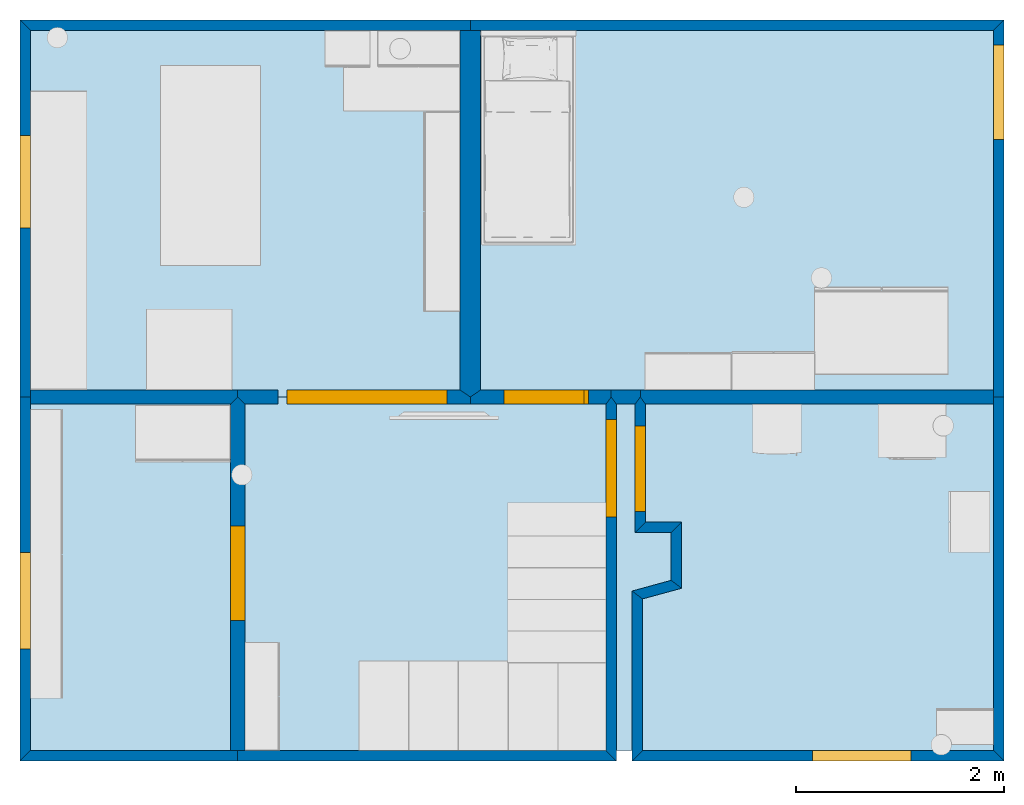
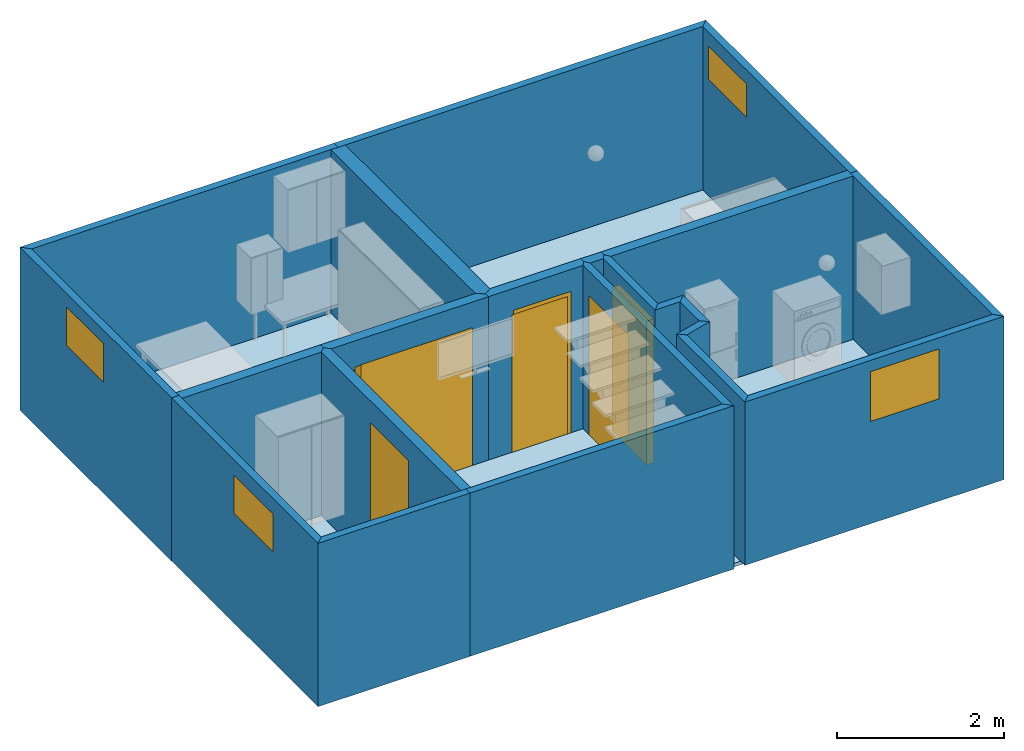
# One storey, part 1 of 9: 22 walls, 6 doors, 6 slabs, 4 windows, 11 openings.
"""IFC2X3 building model written with IfcOpenShell, lengths in metres."""

from ifc_helpers import new_model, si_unit, frame, origin_with_axes, place, context, subcontext, project, spatial, polyline, outline, extrude, type_object, element, fill, save


model = new_model("IFC2X3")

# Units and contexts
model_context = context("Model", 3, precision=1e-05, world=origin_with_axes())
body_context = subcontext(model_context, "Body", "Model", "MODEL_VIEW")
ifc_project = project(units=[si_unit("AREAUNIT", "SQUARE_METRE"), si_unit("LENGTHUNIT", "METRE")], contexts=[model_context])

# Site, building, storey
site_placement = place(None, origin_with_axes())
site = spatial("IfcSite", under=ifc_project, at=site_placement, Name="Site", CompositionType="ELEMENT")
building_placement = place(site_placement, origin_with_axes())
building = spatial("IfcBuilding", under=site, at=building_placement, Name="Building", CompositionType="ELEMENT")
storey_placement = place(building_placement, frame((0.0, 0.0, 0.0500004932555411), z_axis=(0.0, 0.0, 1.0), x_axis=(1.0, 0.0, 0.0)))
storey = spatial("IfcBuildingStorey", under=building, at=storey_placement, Name="Story 0", CompositionType="ELEMENT", Elevation=0.0499999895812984)

# Slabs
slab_type_1 = type_object("IfcSlabType", PredefinedType="FLOOR")
slab_1_placement = place(storey_placement, frame((-2.07477457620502, -0.950619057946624, 0.0), z_axis=(0.0, 0.0, 1.0), x_axis=(1.0, 0.0, 0.0)))
element("IfcSlab", 1, at=slab_1_placement, inside=storey, type_object=slab_type_1, Name="Floor", ObjectType="Floor:Floor-Grnd-Susp_65Scr-80Ins-100Blk-75PC", PredefinedType="FLOOR", context=body_context, shape_type="SweptSolid", body=[
    extrude(outline(polyline([(0.0, 0.0), (1.31941477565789e-06, -3.40500002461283), (0.255001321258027, -3.40499992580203), (0.255000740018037, -1.90499991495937), (0.630000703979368, -1.80499976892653), (0.630000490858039, -1.25499976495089), (0.280000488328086, -1.25499990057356), (0.280000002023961, 1.08498130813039e-07), (0.0, 0.0)])), origin_with_axes(), (0.0, 0.0, -1.0), 0.05),
])
slab_type_2 = type_object("IfcSlabType", PredefinedType="FLOOR")
slab_2_placement = place(storey_placement, frame((-3.4309757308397, 2.58340824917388, 0.0), z_axis=(0.0, 0.0, 1.0), x_axis=(1.0, 0.0, 0.0)))
element("IfcSlab", 2, at=slab_2_placement, inside=storey, type_object=slab_type_2, Name="Floor", ObjectType="Floor:Floor-Grnd-Susp_65Scr-80Ins-100Blk-75PC", PredefinedType="FLOOR", context=body_context, shape_type="SweptSolid", body=[
    extrude(outline(polyline([(0.0, 0.0), (5.51395199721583e-07, -3.5323445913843), (-2.24201580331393, -3.53234457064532), (-4.23879817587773, -3.5323444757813), (-4.23879820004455, -1.06596226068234e-07), (0.0, 0.0)])), origin_with_axes(), (0.0, 0.0, -1.0), 0.05),
])
slab_type_3 = type_object("IfcSlabType", PredefinedType="FLOOR")
slab_3_placement = place(storey_placement, frame((-2.07390536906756, -0.948936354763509, 0.0), z_axis=(0.0, 0.0, 1.0), x_axis=(1.0, 0.0, 0.0)))
element("IfcSlab", 3, at=slab_3_placement, inside=storey, type_object=slab_type_3, Name="Floor", ObjectType="Floor:Floor-Grnd-Susp_65Scr-80Ins-100Blk-75PC", PredefinedType="FLOOR", context=body_context, shape_type="SweptSolid", body=[
    extrude(outline(polyline([(0.0, 0.0), (-1.35706981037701, 4.51409713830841e-07), (-1.35707028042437, 3.53234464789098), (3.68447825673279, 3.53234445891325), (3.68447830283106, -3.4081953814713e-08), (0.280206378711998, -2.59194921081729e-09), (0.0, 0.0)])), origin_with_axes(), (0.0, 0.0, -1.0), 0.05),
])
slab_type_4 = type_object("IfcSlabType", PredefinedType="FLOOR")
slab_4_placement = place(storey_placement, frame((1.61057287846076, -0.948936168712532, 0.0), z_axis=(0.0, 0.0, 1.0), x_axis=(1.0, 0.0, 0.0)))
element("IfcSlab", 4, at=slab_4_placement, inside=storey, type_object=slab_type_4, Name="Floor", ObjectType="Floor:Floor-Grnd-Susp_65Scr-80Ins-100Blk-75PC", PredefinedType="FLOOR", context=body_context, shape_type="SweptSolid", body=[
    extrude(outline(polyline([(0.0, 0.0), (8.58805691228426e-07, -3.40668511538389), (-3.43238943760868, -3.4066856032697), (-3.43238915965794, -1.90731706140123), (-3.05661187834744, -1.80437788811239), (-3.05661218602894, -1.25653406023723), (-3.40427178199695, -1.25653374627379), (-3.40427186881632, -1.88642926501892e-07), (0.0, 0.0)])), origin_with_axes(), (0.0, 0.0, -1.0), 0.05),
])
slab_type_5 = type_object("IfcSlabType", PredefinedType="FLOOR")
slab_5_placement = place(storey_placement, frame((-5.67299089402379, -4.35562069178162, 0.0), z_axis=(0.0, 0.0, 1.0), x_axis=(1.0, 0.0, 0.0)))
element("IfcSlab", 5, at=slab_5_placement, inside=storey, type_object=slab_type_5, Name="Floor", ObjectType="Floor:Floor-Grnd-Susp_65Scr-80Ins-100Blk-75PC", PredefinedType="FLOOR", context=body_context, shape_type="SweptSolid", body=[
    extrude(outline(polyline([(0.0, 0.0), (-1.99678290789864, 2.75972123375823e-07), (-1.99678322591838, 3.4066843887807), (-6.40129893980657e-07, 3.40668458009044), (0.0, 0.0)])), origin_with_axes(), (0.0, 0.0, -1.0), 0.05),
])
slab_type_6 = type_object("IfcSlabType", PredefinedType="FLOOR")
slab_6_placement = place(storey_placement, frame((-2.07390536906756, -0.948936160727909, 0.0), z_axis=(0.0, 0.0, 1.0), x_axis=(1.0, 0.0, 0.0)))
element("IfcSlab", 6, at=slab_6_placement, inside=storey, type_object=slab_type_6, Name="Floor", ObjectType="Floor:Floor-Grnd-Susp_65Scr-80Ins-100Blk-75PC", PredefinedType="FLOOR", context=body_context, shape_type="SweptSolid", body=[
    extrude(outline(polyline([(0.0, 0.0), (9.28854460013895e-08, -3.40668403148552), (-3.59908523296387, -3.40668472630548), (-3.59908616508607, -1.60743536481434e-07), (-1.35706981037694, -1.81482509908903e-07), (0.0, 0.0)])), origin_with_axes(), (0.0, 0.0, -1.0), 0.05),
])

# Walls
wall_type_1 = type_object("IfcWallType", PredefinedType="STANDARD")
wall_1_placement = place(storey_placement, frame((-3.53123480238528, 2.5834082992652, 0.0), z_axis=(0.0, 0.0, 1.0), x_axis=(1.0, 0.0, 0.0)))
element("IfcWallStandardCase", 7, at=wall_1_placement, inside=storey, type_object=wall_type_1, Name="Wall", context=body_context, shape_type="SweptSolid", body=[
    extrude(outline(polyline([(0.0, 0.0), (0.100259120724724, 7.17713177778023e-09), (0.20051824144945, 2.7003652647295e-09), (0.200518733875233, -3.46348465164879), (0.100259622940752, -3.53234449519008), (4.92425782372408e-07, -3.46348464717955), (0.0, 0.0)])), origin_with_axes(), (0.0, 0.0, 1.0), 2.3876605),
])
wall_type_2 = type_object("IfcWallType", PredefinedType="STANDARD")
wall_2_placement = place(storey_placement, frame((-3.43097569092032, 2.68340830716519, 0.0), z_axis=(0.0, 0.0, 1.0), x_axis=(1.0, 0.0, 0.0)))
element("IfcWallStandardCase", 8, at=wall_2_placement, inside=storey, type_object=wall_type_2, Name="Wall", context=body_context, shape_type="SweptSolid", body=[
    extrude(outline(polyline([(0.0, 0.0), (9.2597693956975e-09, -0.100000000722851), (-0.100259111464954, -0.100000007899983), (-4.23879780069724, -0.100000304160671), (-4.33879778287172, -3.10596398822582e-07), (0.0, 0.0)])), origin_with_axes(), (0.0, 0.0, 1.0), 2.3876605),
])

# Wall, opening, window
wall_type_3 = type_object("IfcWallType", PredefinedType="STANDARD")
wall_3_placement = place(storey_placement, frame((-7.76977347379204, 2.68340799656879, 0.0), z_axis=(0.0, 0.0, 1.0), x_axis=(1.0, 0.0, 0.0)))
wall_3 = element("IfcWallStandardCase", 9, at=wall_3_placement, inside=storey, type_object=wall_type_3, Name="Wall", context=body_context, shape_type="SweptSolid", body=[
    extrude(outline(polyline([(0.0, 0.0), (0.0999999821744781, -0.0999999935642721), (0.0999993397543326, -3.56348435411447), (0.099999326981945, -3.63234420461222), (-6.73740903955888e-07, -3.63234418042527), (0.0, 0.0)])), origin_with_axes(), (0.0, 0.0, 1.0), 2.3876605),
])
opening_1_placement = place(wall_3_placement, frame((0.0999996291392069, -2.00332159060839, 1.62651596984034), z_axis=(0.0, 0.0, 1.0), x_axis=(0.0, 0.999999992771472, 0.0)))
opening_1 = element("IfcOpeningElement", 10, at=opening_1_placement, cuts=wall_3, Name="OpeningElement", ObjectType="OPENING", context=body_context, shape_type="SweptSolid", body=[
    extrude(outline(polyline([(-3.55832188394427e-17, 0.0), (0.892699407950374, 0.0), (0.892699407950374, 0.559984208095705), (-3.55832188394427e-17, 0.559984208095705), (-3.55832188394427e-17, 0.0)])), frame((0.0, 0.0, 0.0), z_axis=(0.0, -1.0, 0.0), x_axis=(1.0, 0.0, 0.0)), (0.0, 0.0, -1.0), 0.100100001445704),
])
window_style_1 = type_object("IfcWindowStyle", Name="cf6db475-a516-4175-8fa6-8fee70ae3283", ConstructionType="ALUMINIUM", OperationType="SINGLE_PANEL", ParameterTakesPrecedence=True, Sizeable=True)
window_1_placement = place(opening_1_placement, origin_with_axes())
window_1 = element("IfcWindow", 11, at=window_1_placement, inside=storey, type_object=window_style_1, Name="Window", OverallHeight=1.5, OverallWidth=0.5, context=body_context, shape_type="SweptSolid", body=[
    extrude(outline(polyline([(4.63358785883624e-17, 0.0), (-0.892699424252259, 0.0), (-0.892699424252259, 0.559984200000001), (4.63358785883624e-17, 0.559984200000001), (4.63358785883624e-17, 0.0)])), frame((0.0, 0.100000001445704, 0.0), z_axis=(0.0, 1.0, 0.0), x_axis=(-1.0, 0.0, 0.0)), (0.0, 0.0, -1.0), 0.100000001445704),
])
fill(opening_1, window_1)

# Wall
wall_type_4 = type_object("IfcWallType", PredefinedType="STANDARD")
wall_4_placement = place(storey_placement, frame((-5.67299153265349, -0.880076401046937, 0.0), z_axis=(0.0, 0.0, 1.0), x_axis=(1.0, 0.0, 0.0)))
element("IfcWallStandardCase", 12, at=wall_4_placement, inside=storey, type_object=wall_type_4, Name="Wall", context=body_context, shape_type="SweptSolid", body=[
    extrude(outline(polyline([(0.0, 0.0), (-1.50015821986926e-09, -0.0688598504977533), (-0.0688598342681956, -0.137719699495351), (-1.99678261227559, -0.137719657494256), (-1.99678261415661, -0.0688598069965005), (-1.99678260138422, 4.35012510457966e-08), (0.0, 0.0)])), origin_with_axes(), (0.0, 0.0, 1.0), 2.3876605),
])

# Wall, openings, door
wall_type_5 = type_object("IfcWallType", PredefinedType="STANDARD")
wall_5_placement = place(storey_placement, frame((-3.53123430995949, -0.880076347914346, 0.0), z_axis=(0.0, 0.0, 1.0), x_axis=(1.0, 0.0, 0.0)))
wall_5 = element("IfcWallStandardCase", 13, at=wall_5_placement, inside=storey, type_object=wall_type_5, Name="Wall", context=body_context, shape_type="SweptSolid", body=[
    extrude(outline(polyline([(0.0, 0.0), (0.10025913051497, -0.0688598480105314), (0.100259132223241, -0.137719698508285), (-2.07289735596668, -0.137719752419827), (-2.14175722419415, -0.0688599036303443), (-2.14175722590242, -5.31325905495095e-08), (0.0, 0.0)])), origin_with_axes(), (0.0, 0.0, 1.0), 2.3876605),
])
opening_2_placement = place(wall_5_placement, frame((-0.944236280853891, 0.0, 0.0), z_axis=(0.0, 0.0, 1.0), x_axis=(-0.999999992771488, 0.0, 0.0)))
element("IfcOpeningElement", 14, at=opening_2_placement, cuts=wall_5, Name="OpeningElement", ObjectType="OPENING", context=body_context, shape_type="SweptSolid", body=[
    extrude(outline(polyline([(-8.88178419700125e-16, 0.0), (0.809028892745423, 0.0), (0.809028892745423, 2.00218916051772), (-8.88178419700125e-16, 2.00218916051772), (-8.88178419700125e-16, 0.0)])), frame((0.0, 0.0, 0.0), z_axis=(0.0, -1.0, 0.0), x_axis=(1.0, 0.0, 0.0)), (0.0, 0.0, -1.0), 0.137819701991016),
])
opening_3_placement = place(wall_5_placement, frame((-0.122654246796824, 0.0, 0.0), z_axis=(0.0, 0.0, 1.0), x_axis=(-0.999999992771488, 0.0, 0.0)))
opening_3 = element("IfcOpeningElement", 15, at=opening_3_placement, cuts=wall_5, Name="OpeningElement", ObjectType="OPENING", context=body_context, shape_type="SweptSolid", body=[
    extrude(outline(polyline([(0.0, 0.0), (1.54184754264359, 0.0), (1.54184754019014, 2.0112871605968), (0.0, 2.0112871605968), (0.0, 0.0)])), frame((0.0, 0.0, 0.0), z_axis=(0.0, -1.0, 0.0), x_axis=(1.0, 0.0, 0.0)), (0.0, 0.0, -1.0), 0.137819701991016),
])
door_style_1 = type_object("IfcDoorStyle", Name="e0ca627b-2567-4409-9761-346f1dfe71c0", ConstructionType="NOTDEFINED", OperationType="NOTDEFINED", ParameterTakesPrecedence=False, Sizeable=False)
door_1_placement = place(opening_3_placement, origin_with_axes())
door_1 = element("IfcDoor", 16, at=door_1_placement, inside=storey, type_object=door_style_1, Name="Door", OverallHeight=2.01128714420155, OverallWidth=1.54184754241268, context=body_context, shape_type="SweptSolid", body=[
    extrude(outline(polyline([(0.0, 0.0), (-1.54184754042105, 0.0), (-1.5418475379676, 2.01128713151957), (0.0, 2.01128713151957), (0.0, 0.0)])), frame((0.0, 0.137719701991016, 0.0), z_axis=(0.0, 1.0, 0.0), x_axis=(-1.0, 0.0, 0.0)), (0.0, 0.0, -1.0), 0.137719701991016),
])
fill(opening_3, door_1)

# Wall, opening, window
wall_type_6 = type_object("IfcWallType", PredefinedType="STANDARD")
wall_6_placement = place(storey_placement, frame((1.61057290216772, 2.58340808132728, 0.0), z_axis=(0.0, 0.0, 1.0), x_axis=(1.0, 0.0, 0.0)))
wall_6 = element("IfcWallStandardCase", 17, at=wall_6_placement, inside=storey, type_object=wall_type_6, Name="Wall", context=body_context, shape_type="SweptSolid", body=[
    extrude(outline(polyline([(0.0, 0.0), (0.0999999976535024, 0.0999999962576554), (0.100000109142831, -3.53234426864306), (1.08419980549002e-07, -3.53234427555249), (1.06306431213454e-07, -3.46348442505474), (0.0, 0.0)])), origin_with_axes(), (0.0, 0.0, 1.0), 2.3876605),
])
opening_4_placement = place(wall_6_placement, frame((0.0, -0.140581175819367, 1.69907383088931), z_axis=(0.0, 0.0, 1.0), x_axis=(0.0, -0.999999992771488, 0.0)))
opening_4 = element("IfcOpeningElement", 18, at=opening_4_placement, cuts=wall_6, Name="OpeningElement", ObjectType="OPENING", context=body_context, shape_type="SweptSolid", body=[
    extrude(outline(polyline([(8.16179705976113e-17, 0.0), (0.908886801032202, 0.0), (0.908886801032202, 0.48434448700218), (8.16179705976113e-17, 0.48434448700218), (8.16179705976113e-17, 0.0)])), frame((0.0, 0.0, 0.0), z_axis=(0.0, -1.0, 0.0), x_axis=(1.0, 0.0, 0.0)), (0.0, 0.0, -1.0), 0.100100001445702),
])
window_style_2 = type_object("IfcWindowStyle", Name="9cde9dcd-0b3c-476f-9542-ea27ff2e8a0a", ConstructionType="ALUMINIUM", OperationType="SINGLE_PANEL", ParameterTakesPrecedence=True, Sizeable=True)
window_2_placement = place(opening_4_placement, origin_with_axes())
window_2 = element("IfcWindow", 19, at=window_2_placement, inside=storey, type_object=window_style_2, Name="Window", OverallHeight=1.5, OverallWidth=0.5, context=body_context, shape_type="SweptSolid", body=[
    extrude(outline(polyline([(-1.49695735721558e-17, 0.0), (-0.908886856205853, 0.0), (-0.908886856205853, 0.484344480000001), (-1.49695735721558e-17, 0.484344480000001), (-1.49695735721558e-17, 0.0)])), frame((0.0, 0.100000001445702, 0.0), z_axis=(0.0, 1.0, 0.0), x_axis=(-1.0, 0.0, 0.0)), (0.0, 0.0, -1.0), 0.100000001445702),
])
fill(opening_4, window_2)

# Walls
wall_type_7 = type_object("IfcWallType", PredefinedType="STANDARD")
wall_7_placement = place(storey_placement, frame((1.61057300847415, -0.880076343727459, 0.0), z_axis=(0.0, 0.0, 1.0), x_axis=(1.0, 0.0, 0.0)))
element("IfcWallStandardCase", 20, at=wall_7_placement, inside=storey, type_object=wall_type_7, Name="Wall", context=body_context, shape_type="SweptSolid", body=[
    extrude(outline(polyline([(0.0, 0.0), (2.1135493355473e-09, -0.0688598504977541), (1.13572204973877e-08, -0.137719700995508), (-3.35427199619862, -0.137719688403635), (-3.40427199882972, -0.068859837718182), (-3.40427199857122, 1.27795722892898e-08), (0.0, 0.0)])), origin_with_axes(), (0.0, 0.0, 1.0), 2.3876605),
])
wall_type_8 = type_object("IfcWallType", PredefinedType="STANDARD")
wall_8_placement = place(storey_placement, frame((-1.79369901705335, -0.880076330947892, 0.0), z_axis=(0.0, 0.0, 1.0), x_axis=(1.0, 0.0, 0.0)))
element("IfcWallStandardCase", 21, at=wall_8_placement, inside=storey, type_object=wall_type_8, Name="Wall", context=body_context, shape_type="SweptSolid", body=[
    extrude(outline(polyline([(0.0, 0.0), (2.66977799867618e-08, -0.0688598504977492), (-0.0499999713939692, -0.1377197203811), (-0.230206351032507, -0.13771979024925), (-0.280206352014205, -0.068859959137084), (-0.280206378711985, -1.08639334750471e-07), (0.0, 0.0)])), origin_with_axes(), (0.0, 0.0, 1.0), 2.3876605),
])
wall_type_9 = type_object("IfcWallType", PredefinedType="STANDARD")
wall_9_placement = place(storey_placement, frame((1.71057289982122, 2.68340807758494, 0.0), z_axis=(0.0, 0.0, 1.0), x_axis=(1.0, 0.0, 0.0)))
element("IfcWallStandardCase", 22, at=wall_9_placement, inside=storey, type_object=wall_type_9, Name="Wall", context=body_context, shape_type="SweptSolid", body=[
    extrude(outline(polyline([(0.0, 0.0), (-0.0999999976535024, -0.0999999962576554), (-5.04128946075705, -0.0999997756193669), (-5.14154858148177, -0.0999997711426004), (-5.14154857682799, 2.29580250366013e-07), (0.0, 0.0)])), origin_with_axes(), (0.0, 0.0, 1.0), 2.3876605),
])

# Wall, openings, doors
wall_type_10 = type_object("IfcWallType", PredefinedType="STANDARD")
wall_10_placement = place(storey_placement, frame((-2.07390536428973, -0.880076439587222, 0.0), z_axis=(0.0, 0.0, 1.0), x_axis=(1.0, 0.0, 0.0)))
wall_10 = element("IfcWallStandardCase", 23, at=wall_10_placement, inside=storey, type_object=wall_type_10, Name="Wall", context=body_context, shape_type="SweptSolid", body=[
    extrude(outline(polyline([(0.0, 0.0), (-4.77783101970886e-09, -0.0688598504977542), (-0.0500000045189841, -0.137719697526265), (-1.35706981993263, -0.13771960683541), (-1.3570698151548, -0.0688597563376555), (-1.25681070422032, 8.72036346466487e-08), (0.0, 0.0)])), origin_with_axes(), (0.0, 0.0, 1.0), 2.3876605),
])
opening_5_placement = place(wall_10_placement, frame((-0.216484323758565, 0.0, 0.0), z_axis=(0.0, 0.0, 1.0), x_axis=(-0.999999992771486, 0.0, 0.0)))
opening_5 = element("IfcOpeningElement", 24, at=opening_5_placement, cuts=wall_10, Name="OpeningElement", ObjectType="OPENING", context=body_context, shape_type="SweptSolid", body=[
    extrude(outline(polyline([(0.0, 0.0), (0.792596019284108, -8.88178419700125e-16), (0.792596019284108, 2.06714586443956), (0.0, 2.06714586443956), (0.0, 0.0)])), frame((0.0, 0.0, 0.0), z_axis=(0.0, -1.0, 0.0), x_axis=(1.0, 0.0, 0.0)), (0.0, 0.0, -1.0), 0.137819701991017),
])
opening_6_placement = place(wall_10_placement, frame((-0.263796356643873, 0.0, 0.0), z_axis=(0.0, 0.0, 1.0), x_axis=(-0.999999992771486, 0.0, 0.0)))
opening_6 = element("IfcOpeningElement", 25, at=opening_6_placement, cuts=wall_10, Name="OpeningElement", ObjectType="OPENING", context=body_context, shape_type="SweptSolid", body=[
    extrude(outline(polyline([(-4.44089209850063e-16, 0.0), (0.768482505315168, -8.88178419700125e-16), (0.768482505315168, 2.00864726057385), (-4.44089209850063e-16, 2.00864726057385), (-4.44089209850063e-16, 0.0)])), frame((0.0, 0.0, 0.0), z_axis=(0.0, -1.0, 0.0), x_axis=(1.0, 0.0, 0.0)), (0.0, 0.0, -1.0), 0.137819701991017),
])
door_style_2 = type_object("IfcDoorStyle", Name="640c466e-8cfb-4c5e-b68f-a5c351d448b6", ConstructionType="NOTDEFINED", OperationType="NOTDEFINED", ParameterTakesPrecedence=False, Sizeable=False)
door_2_placement = place(opening_5_placement, origin_with_axes())
door_2 = element("IfcDoor", 26, at=door_2_placement, inside=storey, type_object=door_style_2, Name="Door", OverallHeight=2.0671458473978, OverallWidth=0.792596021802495, context=body_context, shape_type="SweptSolid", body=[
    extrude(outline(polyline([(0.0, 0.0), (-0.792596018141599, -8.88178419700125e-16), (-0.792596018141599, 2.06714583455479), (0.0, 2.06714583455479), (0.0, 0.0)])), frame((0.0, 0.137719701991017, 0.0), z_axis=(0.0, 1.0, 0.0), x_axis=(-1.0, 0.0, 0.0)), (0.0, 0.0, -1.0), 0.137719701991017),
])
fill(opening_5, door_2)
door_style_3 = type_object("IfcDoorStyle", Name="2950bec3-39cd-4201-9806-fb1a4988bc30", ConstructionType="NOTDEFINED", OperationType="NOTDEFINED", ParameterTakesPrecedence=False, Sizeable=False)
door_3_placement = place(opening_6_placement, origin_with_axes())
door_3 = element("IfcDoor", 27, at=door_3_placement, inside=storey, type_object=door_style_3, Name="Door", OverallHeight=2.00864724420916, OverallWidth=0.76848250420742, context=body_context, shape_type="SweptSolid", body=[
    extrude(outline(polyline([(0.0, 0.0), (-0.768482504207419, -8.88178419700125e-16), (-0.768482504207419, 2.00864723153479), (0.0, 2.00864723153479), (0.0, 0.0)])), frame((0.0, 0.137719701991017, 0.0), z_axis=(0.0, 1.0, 0.0), x_axis=(-1.0, 0.0, 0.0)), (0.0, 0.0, -1.0), 0.137719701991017),
])
fill(opening_6, door_3)

# Walls
wall_type_11 = type_object("IfcWallType", PredefinedType="STANDARD")
wall_11_placement = place(storey_placement, frame((-1.49603920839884, -2.25547009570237, 0.0), z_axis=(0.0, 0.0, 1.0), x_axis=(1.0, 0.0, 0.0)))
element("IfcWallStandardCase", 28, at=wall_11_placement, inside=storey, type_object=wall_type_11, Name="Wall", context=body_context, shape_type="SweptSolid", body=[
    extrude(outline(polyline([(0.0, 0.0), (0.0999999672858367, 0.0999999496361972), (0.100000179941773, -0.535989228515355), (1.53709631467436e-07, -0.459698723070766), (0.0, 0.0)])), origin_with_axes(), (0.0, 0.0, 1.0), 2.3876605),
])
wall_type_12 = type_object("IfcWallType", PredefinedType="STANDARD")
wall_12_placement = place(storey_placement, frame((-1.39603924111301, -2.15547014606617, 0.0), z_axis=(0.0, 0.0, 1.0), x_axis=(1.0, 0.0, 0.0)))
element("IfcWallStandardCase", 29, at=wall_12_placement, inside=storey, type_object=wall_type_12, Name="Wall", context=body_context, shape_type="SweptSolid", body=[
    extrude(outline(polyline([(0.0, 0.0), (-0.0999999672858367, -0.0999999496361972), (-0.447659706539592, -0.0999997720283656), (-0.34765970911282, 1.7760781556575e-07), (0.0, 0.0)])), origin_with_axes(), (0.0, 0.0, 1.0), 2.3876605),
])
wall_type_13 = type_object("IfcWallType", PredefinedType="STANDARD")
wall_13_placement = place(storey_placement, frame((1.61057301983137, -1.01779604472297, 0.0), z_axis=(0.0, 0.0, 1.0), x_axis=(1.0, 0.0, 0.0)))
element("IfcWallStandardCase", 30, at=wall_13_placement, inside=storey, type_object=wall_type_13, Name="Wall", context=body_context, shape_type="SweptSolid", body=[
    extrude(outline(polyline([(0.0, 0.0), (-9.24367116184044e-09, 0.0688598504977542), (0.0999999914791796, 0.0688598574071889), (0.100000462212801, -3.4378255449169), (4.48066058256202e-07, -3.33782554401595), (0.0, 0.0)])), origin_with_axes(), (0.0, 0.0, 1.0), 2.3876605),
])
wall_type_14 = type_object("IfcWallType", PredefinedType="STANDARD")
wall_14_placement = place(storey_placement, frame((-1.49603905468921, -2.71516881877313, 0.0), z_axis=(0.0, 0.0, 1.0), x_axis=(1.0, 0.0, 0.0)))
element("IfcWallStandardCase", 31, at=wall_14_placement, inside=storey, type_object=wall_type_14, Name="Wall", context=body_context, shape_type="SweptSolid", body=[
    extrude(outline(polyline([(0.0, 0.0), (0.100000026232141, -0.076290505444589), (-0.27577727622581, -0.179229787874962), (-0.375777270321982, -0.102939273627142), (0.0, 0.0)])), origin_with_axes(), (0.0, 0.0, 1.0), 2.3876605),
])

# Wall, opening, window
wall_type_15 = type_object("IfcWallType", PredefinedType="STANDARD")
wall_15_placement = place(storey_placement, frame((1.61057346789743, -4.35562158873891, 0.0), z_axis=(0.0, 0.0, 1.0), x_axis=(1.0, 0.0, 0.0)))
wall_15 = element("IfcWallStandardCase", 32, at=wall_15_placement, inside=storey, type_object=wall_type_15, Name="Wall", context=body_context, shape_type="SweptSolid", body=[
    extrude(outline(polyline([(0.0, 0.0), (0.100000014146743, -0.100000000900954), (-3.48238993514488, -0.0999999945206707), (-3.38238992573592, 6.02407990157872e-09), (0.0, 0.0)])), origin_with_axes(), (0.0, 0.0, 1.0), 2.3876605),
])
opening_7_placement = place(wall_15_placement, frame((-0.798156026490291, 0.0, 1.49546331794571), z_axis=(0.0, 0.0, 1.0), x_axis=(-0.999999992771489, 0.0, 0.0)))
opening_7 = element("IfcOpeningElement", 33, at=opening_7_placement, cuts=wall_15, Name="OpeningElement", ObjectType="OPENING", context=body_context, shape_type="SweptSolid", body=[
    extrude(outline(polyline([(0.0, 0.0), (0.947400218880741, 0.0), (0.947400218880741, 0.727653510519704), (0.0, 0.727653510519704), (0.0, 0.0)])), frame((0.0, 0.0, 0.0), z_axis=(0.0, -1.0, 0.0), x_axis=(1.0, 0.0, 0.0)), (0.0, 0.0, -1.0), 0.100100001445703),
])
window_style_3 = type_object("IfcWindowStyle", Name="0fe71dad-59db-4cc0-a186-71f66b303f08", ConstructionType="ALUMINIUM", OperationType="SINGLE_PANEL", ParameterTakesPrecedence=True, Sizeable=True)
window_3_placement = place(opening_7_placement, origin_with_axes())
window_3 = element("IfcWindow", 34, at=window_3_placement, inside=storey, type_object=window_style_3, Name="Window", OverallHeight=1.5, OverallWidth=0.5, context=body_context, shape_type="SweptSolid", body=[
    extrude(outline(polyline([(0.0, 0.0), (-0.947400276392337, 0.0), (-0.947400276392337, 0.727653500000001), (0.0, 0.727653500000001), (0.0, 0.0)])), frame((0.0, 0.100000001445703, 0.0), z_axis=(0.0, 1.0, 0.0), x_axis=(-1.0, 0.0, 0.0)), (0.0, 0.0, -1.0), 0.100000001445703),
])
fill(opening_7, window_3)

# Wall
wall_type_16 = type_object("IfcWallType", PredefinedType="STANDARD")
wall_16_placement = place(storey_placement, frame((-1.87181632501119, -2.81810809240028, 0.0), z_axis=(0.0, 0.0, 1.0), x_axis=(1.0, 0.0, 0.0)))
element("IfcWallStandardCase", 35, at=wall_16_placement, inside=storey, type_object=wall_type_16, Name="Wall", context=body_context, shape_type="SweptSolid", body=[
    extrude(outline(polyline([(0.0, 0.0), (0.0999999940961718, -0.0762905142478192), (0.0999998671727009, -1.53751349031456), (-1.42236262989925e-07, -1.63751349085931), (0.0, 0.0)])), origin_with_axes(), (0.0, 0.0, 1.0), 2.3876605),
])

# Wall, opening, door
wall_type_17 = type_object("IfcWallType", PredefinedType="STANDARD")
wall_17_placement = place(storey_placement, frame((-1.84369898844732, -1.01779605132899, 0.0), z_axis=(0.0, 0.0, 1.0), x_axis=(1.0, 0.0, 0.0)))
wall_17 = element("IfcWallStandardCase", 36, at=wall_17_placement, inside=storey, type_object=wall_type_17, Name="Wall", context=body_context, shape_type="SweptSolid", body=[
    extrude(outline(polyline([(0.0, 0.0), (0.0499999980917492, 0.0688598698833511), (0.100000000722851, 1.91978979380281e-08), (0.100000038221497, -1.13767391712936), (4.07947247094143e-08, -1.23767386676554), (0.0, 0.0)])), origin_with_axes(), (0.0, 0.0, 1.0), 2.3876605),
])
opening_8_placement = place(wall_17_placement, frame((0.100000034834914, -1.03492814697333, 0.0), z_axis=(0.0, 0.0, 1.0), x_axis=(0.0, 0.999999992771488, 0.0)))
opening_8 = element("IfcOpeningElement", 37, at=opening_8_placement, cuts=wall_17, Name="OpeningElement", ObjectType="OPENING", context=body_context, shape_type="SweptSolid", body=[
    extrude(outline(polyline([(6.81035400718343e-17, 0.0), (0.823526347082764, 0.0), (0.823526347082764, 2.10208458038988), (6.81035400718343e-17, 2.10208458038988), (6.81035400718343e-17, 0.0)])), frame((0.0, 0.0, 0.0), z_axis=(0.0, -1.0, 0.0), x_axis=(1.0, 0.0, 0.0)), (0.0, 0.0, -1.0), 0.100100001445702),
])
door_style_4 = type_object("IfcDoorStyle", Name="f23297d4-52f4-4382-aeaa-76c39c09d770", ConstructionType="NOTDEFINED", OperationType="NOTDEFINED", ParameterTakesPrecedence=False, Sizeable=False)
door_4_placement = place(opening_8_placement, origin_with_axes())
door_4 = element("IfcDoor", 38, at=door_4_placement, inside=storey, type_object=door_style_4, Name="Door", OverallHeight=2.10208455, OverallWidth=0.823526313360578, context=body_context, shape_type="SweptSolid", body=[
    extrude(outline(polyline([(6.17228938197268e-17, 0.0), (-0.82352643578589, 0.0), (-0.82352643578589, 2.10208455), (6.17228938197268e-17, 2.10208455), (6.17228938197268e-17, 0.0)])), frame((0.0, 0.100000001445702, 0.0), z_axis=(0.0, 1.0, 0.0), x_axis=(-1.0, 0.0, 0.0)), (0.0, 0.0, -1.0), 0.100000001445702),
])
fill(opening_8, door_4)

# Wall
wall_type_18 = type_object("IfcWallType", PredefinedType="STANDARD")
wall_18_placement = place(storey_placement, frame((-5.74185050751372, -4.35562072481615, 0.0), z_axis=(0.0, 0.0, 1.0), x_axis=(1.0, 0.0, 0.0)))
element("IfcWallStandardCase", 39, at=wall_18_placement, inside=storey, type_object=wall_type_18, Name="Wall", context=body_context, shape_type="SweptSolid", body=[
    extrude(outline(polyline([(0.0, 0.0), (0.0688598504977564, -6.43821707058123e-09), (0.0688598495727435, -0.100000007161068), (-2.02792354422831, -0.0999998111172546), (-1.92792354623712, 1.80255854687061e-07), (0.0, 0.0)])), origin_with_axes(), (0.0, 0.0, 1.0), 2.3876605),
])

# Wall, opening, window
wall_type_19 = type_object("IfcWallType", PredefinedType="STANDARD")
wall_19_placement = place(storey_placement, frame((-7.76977414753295, -0.948936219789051, 0.0), z_axis=(0.0, 0.0, 1.0), x_axis=(1.0, 0.0, 0.0)))
wall_19 = element("IfcWallStandardCase", 40, at=wall_19_placement, inside=storey, type_object=wall_type_19, Name="Wall", context=body_context, shape_type="SweptSolid", body=[
    extrude(outline(polyline([(0.0, 0.0), (0.100000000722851, 1.1745613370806e-08), (0.100000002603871, -0.0688598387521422), (0.100000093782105, -3.40668432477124), (9.57909236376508e-08, -3.50668431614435), (0.0, 0.0)])), origin_with_axes(), (0.0, 0.0, 1.0), 2.3876605),
])
opening_9_placement = place(wall_19_placement, frame((0.100000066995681, -2.42609517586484, 1.60738636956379), z_axis=(0.0, 0.0, 1.0), x_axis=(0.0, 0.999999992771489, 0.0)))
opening_9 = element("IfcOpeningElement", 41, at=opening_9_placement, cuts=wall_19, Name="OpeningElement", ObjectType="OPENING", context=body_context, shape_type="SweptSolid", body=[
    extrude(outline(polyline([(-1.20474528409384e-16, 0.0), (0.929663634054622, 0.0), (0.929663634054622, 0.553371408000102), (-1.20474528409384e-16, 0.553371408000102), (-1.20474528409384e-16, 0.0)])), frame((0.0, 0.0, 0.0), z_axis=(0.0, -1.0, 0.0), x_axis=(1.0, 0.0, 0.0)), (0.0, 0.0, -1.0), 0.1001000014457),
])
window_style_4 = type_object("IfcWindowStyle", Name="5856b02f-0e77-4690-b328-91309925a748", ConstructionType="ALUMINIUM", OperationType="SINGLE_PANEL", ParameterTakesPrecedence=True, Sizeable=True)
window_4_placement = place(opening_9_placement, origin_with_axes())
window_4 = element("IfcWindow", 42, at=window_4_placement, inside=storey, type_object=window_style_4, Name="Window", OverallHeight=1.5, OverallWidth=0.5, context=body_context, shape_type="SweptSolid", body=[
    extrude(outline(polyline([(4.20339041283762e-17, 0.0), (-0.929663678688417, 0.0), (-0.929663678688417, 0.5533714), (4.20339041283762e-17, 0.5533714), (4.20339041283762e-17, 0.0)])), frame((0.0, 0.1000000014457, 0.0), z_axis=(0.0, 1.0, 0.0), x_axis=(-1.0, 0.0, 0.0)), (0.0, 0.0, -1.0), 0.1000000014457),
])
fill(opening_9, window_4)

# Wall, opening, door
wall_type_20 = type_object("IfcWallType", PredefinedType="STANDARD")
wall_20_placement = place(storey_placement, frame((-5.74185136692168, -1.01779610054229, 0.0), z_axis=(0.0, 0.0, 1.0), x_axis=(1.0, 0.0, 0.0)))
wall_20 = element("IfcWallStandardCase", 43, at=wall_20_placement, inside=storey, type_object=wall_type_20, Name="Wall", context=body_context, shape_type="SweptSolid", body=[
    extrude(outline(polyline([(0.0, 0.0), (0.0688598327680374, 0.0688598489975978), (0.137719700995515, 2.08115302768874e-10), (0.137720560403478, -3.33782462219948), (0.0688607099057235, -3.33782463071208), (8.59407967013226e-07, -3.33782462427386), (0.0, 0.0)])), origin_with_axes(), (0.0, 0.0, 1.0), 2.3876605),
])
opening_10_placement = place(wall_20_placement, frame((0.0, -1.17266689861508, 0.0), z_axis=(0.0, 0.0, 1.0), x_axis=(0.0, -0.999999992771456, 0.0)))
opening_10 = element("IfcOpeningElement", 44, at=opening_10_placement, cuts=wall_20, Name="OpeningElement", ObjectType="OPENING", context=body_context, shape_type="SweptSolid", body=[
    extrude(outline(polyline([(8.06191136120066e-17, 0.0), (0.913229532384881, 0.0), (0.913229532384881, 2.06714588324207), (8.06191136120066e-17, 2.06714588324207), (8.06191136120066e-17, 0.0)])), frame((0.0, 0.0, 0.0), z_axis=(0.0, -1.0, 0.0), x_axis=(1.0, 0.0, 0.0)), (0.0, 0.0, -1.0), 0.137819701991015),
])
door_style_5 = type_object("IfcDoorStyle", Name="927e4306-a564-49d6-ae39-956255663656", ConstructionType="NOTDEFINED", OperationType="NOTDEFINED", ParameterTakesPrecedence=False, Sizeable=False)
door_5_placement = place(opening_10_placement, origin_with_axes())
door_5 = element("IfcDoor", 45, at=door_5_placement, inside=storey, type_object=door_style_5, Name="Door", OverallHeight=2.06714585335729, OverallWidth=0.913229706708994, context=body_context, shape_type="SweptSolid", body=[
    extrude(outline(polyline([(-1.40244727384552e-16, 0.0), (-0.913229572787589, 0.0), (-0.913229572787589, 2.06714585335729), (-1.40244727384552e-16, 2.06714585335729), (-1.40244727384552e-16, 0.0)])), frame((0.0, 0.137719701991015, 0.0), z_axis=(0.0, 1.0, 0.0), x_axis=(-1.0, 0.0, 0.0)), (0.0, 0.0, -1.0), 0.137719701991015),
])
fill(opening_10, door_5)

wall_type_21 = type_object("IfcWallType", PredefinedType="STANDARD")
wall_21_placement = place(storey_placement, frame((-2.12390536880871, -1.01779613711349, 0.0), z_axis=(0.0, 0.0, 1.0), x_axis=(1.0, 0.0, 0.0)))
wall_21 = element("IfcWallStandardCase", 46, at=wall_21_placement, inside=storey, type_object=wall_type_21, Name="Wall", context=body_context, shape_type="SweptSolid", body=[
    extrude(outline(polyline([(0.0, 0.0), (0.0499999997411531, 0.0688598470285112), (0.100000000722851, 1.5916345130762e-08), (0.100000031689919, -3.43782414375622), (3.00662930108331e-08, -3.33782415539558), (0.0, 0.0)])), origin_with_axes(), (0.0, 0.0, 1.0), 2.3876605),
])
opening_11_placement = place(wall_21_placement, frame((0.0, -0.147481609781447, 0.0), z_axis=(0.0, 0.0, 1.0), x_axis=(0.0, -0.999999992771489, 0.0)))
opening_11 = element("IfcOpeningElement", 47, at=opening_11_placement, cuts=wall_21, Name="OpeningElement", ObjectType="OPENING", context=body_context, shape_type="SweptSolid", body=[
    extrude(outline(polyline([(-8.88189583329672e-17, 0.0), (0.938532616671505, 0.0), (0.938532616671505, 2.03054377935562), (-8.88189583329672e-17, 2.03054377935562), (-8.88189583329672e-17, 0.0)])), frame((0.0, 0.0, 0.0), z_axis=(0.0, -1.0, 0.0), x_axis=(1.0, 0.0, 0.0)), (0.0, 0.0, -1.0), 0.100100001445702),
])
door_style_6 = type_object("IfcDoorStyle", Name="51959382-d1fb-4975-9214-d1b50929414a", ConstructionType="NOTDEFINED", OperationType="NOTDEFINED", ParameterTakesPrecedence=False, Sizeable=False)
door_6_placement = place(opening_11_placement, origin_with_axes())
door_6 = element("IfcDoor", 48, at=door_6_placement, inside=storey, type_object=door_style_6, Name="Door", OverallHeight=2.03054375, OverallWidth=0.938532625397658, context=body_context, shape_type="SweptSolid", body=[
    extrude(outline(polyline([(-4.35597777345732e-17, 0.0), (-0.938532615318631, 0.0), (-0.938532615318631, 2.03054375), (-4.35597777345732e-17, 2.03054375), (-4.35597777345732e-17, 0.0)])), frame((0.0, 0.100000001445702, 0.0), z_axis=(0.0, 1.0, 0.0), x_axis=(-1.0, 0.0, 0.0)), (0.0, 0.0, -1.0), 0.100000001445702),
])
fill(opening_11, door_6)

# Wall
wall_type_22 = type_object("IfcWallType", PredefinedType="STANDARD")
wall_22_placement = place(storey_placement, frame((-2.12390533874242, -4.35562029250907, 0.0), z_axis=(0.0, 0.0, 1.0), x_axis=(1.0, 0.0, 0.0)))
element("IfcWallStandardCase", 49, at=wall_22_placement, inside=storey, type_object=wall_type_22, Name="Wall", context=body_context, shape_type="SweptSolid", body=[
    extrude(outline(polyline([(0.0, 0.0), (0.100000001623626, -0.0999999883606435), (-3.54908530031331, -0.100000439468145), (-3.54908531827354, -4.38745296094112e-07), (-3.48022546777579, -4.30232696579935e-07), (0.0, 0.0)])), origin_with_axes(), (0.0, 0.0, 1.0), 2.3876605),
])

save(model, "model.ifc")
